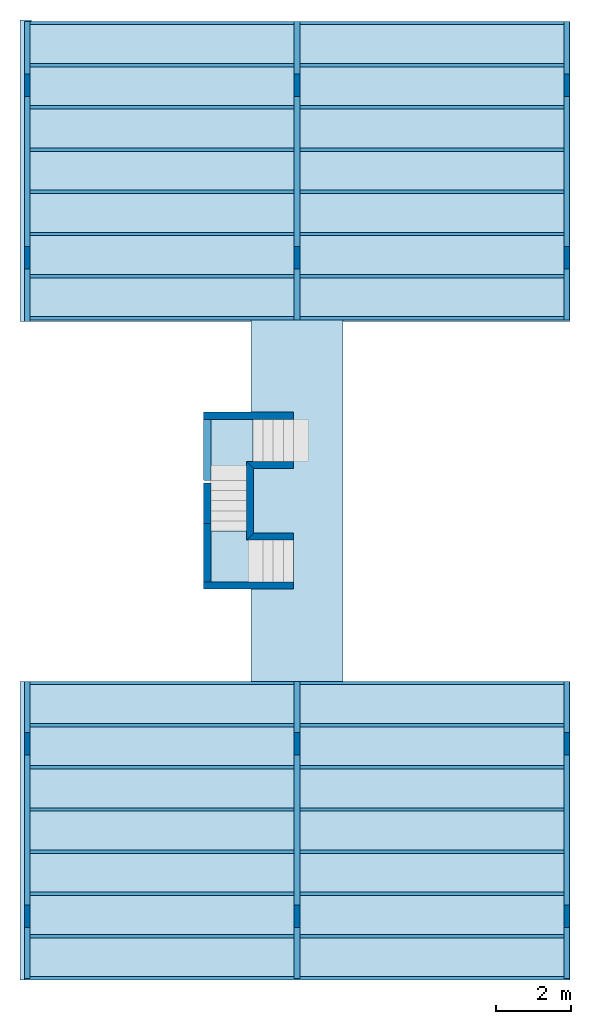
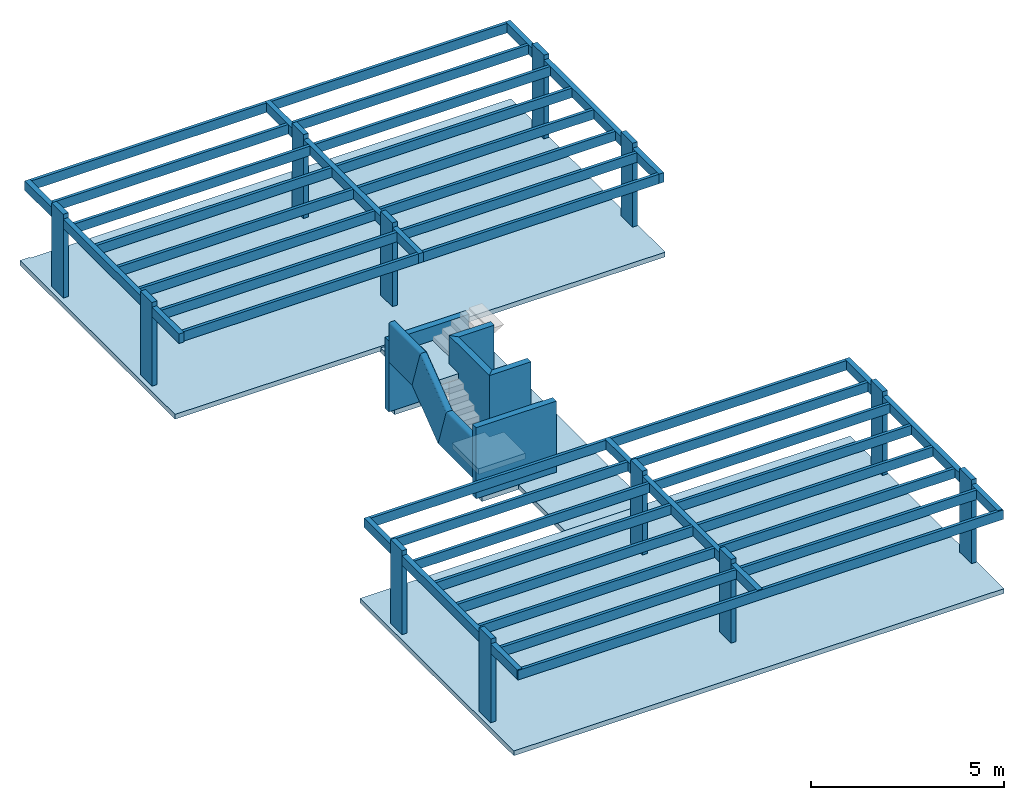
# One storey, part 1 of 2: 22 beams, 12 columns, 8 walls, 5 slabs, 1 element without a shape of its own.
"""IFC4 building model written with IfcOpenShell, lengths in millimetres."""

from ifc_helpers import new_model, entity, si_unit, converted_unit, derived_unit, direction, frame, frame_2d, origin_with_axes, origin_2d_with_axis, place, context, subcontext, project, spatial, line, indexed_curve, rectangle, outline, extrude, polygons, source, transform, mapped, material, layer, layer_set, layer_usage, type_object, element, aggregate, save


model = new_model("IFC4")

# Units and contexts
model_context = context("Model", 3, precision=0.01, world=origin_with_axes(), true_north=direction((0.0, 1.0)))
body_context = subcontext(model_context, "Body", "Model", "MODEL_VIEW")
ifc_project = project(units=[si_unit("LENGTHUNIT", "METRE", prefix="MILLI"), si_unit("AREAUNIT", "SQUARE_METRE"), si_unit("VOLUMEUNIT", "CUBIC_METRE"), converted_unit("PLANEANGLEUNIT", "DEGREE", entity("IfcPlaneAngleMeasure", 0.0174532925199), si_unit("PLANEANGLEUNIT", "RADIAN"), dimensions=[0, 0, 0, 0, 0, 0, 0]), converted_unit("TIMEUNIT", "Year", entity("IfcTimeMeasure", 31556926.0), si_unit("TIMEUNIT", "SECOND"), dimensions=[0, 0, 1, 0, 0, 0, 0]), si_unit("MASSUNIT", "GRAM", prefix="KILO"), si_unit("THERMODYNAMICTEMPERATUREUNIT", "DEGREE_CELSIUS"), si_unit("LUMINOUSINTENSITYUNIT", "LUMEN"), si_unit("ENERGYUNIT", "JOULE", prefix="MEGA"), derived_unit("THERMALCONDUCTANCEUNIT", [(si_unit("POWERUNIT", "WATT"), 1), (si_unit("LENGTHUNIT", "METRE"), -1), (si_unit("THERMODYNAMICTEMPERATUREUNIT", "KELVIN"), -1)]), derived_unit("SPECIFICHEATCAPACITYUNIT", [(si_unit("ENERGYUNIT", "JOULE"), 1), (si_unit("MASSUNIT", "GRAM", prefix="KILO"), -1), (si_unit("THERMODYNAMICTEMPERATUREUNIT", "KELVIN"), -1)]), derived_unit("MASSDENSITYUNIT", [(si_unit("MASSUNIT", "GRAM", prefix="KILO"), 1), (si_unit("VOLUMEUNIT", "CUBIC_METRE"), -1)])], contexts=[model_context])

# Site, building, storey
site_placement = place(None, origin_with_axes())
site = spatial("IfcSite", under=ifc_project, at=site_placement, Name="Local", CompositionType="ELEMENT")
building_placement = place(site_placement, origin_with_axes())
building = spatial("IfcBuilding", under=site, at=building_placement, Name="Construção", CompositionType="ELEMENT")
storey_placement = place(building_placement, frame((0.0, 0.0, -2650.0), z_axis=(0.0, 0.0, 1.0), x_axis=(1.0, 0.0, 0.0)))
storey = spatial("IfcBuildingStorey", under=building, at=storey_placement, Name="Pavimento Terreo", CompositionType="ELEMENT", Elevation=-2650.0)

# Columns
ifc_material_1 = material(Name="Concreto Armado Moldado in Loco - Estrutural")
column_type = type_object("IfcColumnType", Name="Concreto Armado Moldado in Loco - Estrutural 600 x 150", PredefinedType="NOTDEFINED")
for number, where, z_axis, x_axis, name in (
    (1, (14575.0, 19560.0, 0.0), (0.0, 0.0, 1.0), (0.0, -1.0, 0.0), "PILAR-017"),
    (2, (14575.0, 6600.0, 0.0), (0.0, 0.0, 1.0), (0.0, -1.0, 0.0), "PILAR-015"),
    (3, (14575.0, 24160.0, 0.0), (0.0, 0.0, 1.0), (0.0, -1.0, 0.0), "PILAR-006"),
    (4, (14575.0, 2000.0, 0.0), (0.0, 0.0, 1.0), (0.0, -1.0, 0.0), "PILAR-007"),
    (5, (7385.0, 6600.0, 0.0), (0.0, 0.0, 1.0), (0.0, -1.0, 0.0), "PILAR-016"),
):
    element("IfcColumn", number, at=place(storey_placement, frame(where, z_axis=z_axis, x_axis=x_axis)), inside=storey, type_object=column_type, material=ifc_material_1, Name=name, PredefinedType="NOTDEFINED", context=body_context, shape_type="SweptSolid", body=[
        extrude(rectangle(XDim=600.0, YDim=150.0, at=origin_2d_with_axis()), origin_with_axes(), (0.0, 0.0, 1.0), 2650.0),
    ])
for number, where, z_axis, x_axis, name in (
    (6, (7385.0, 19560.0, 0.0), (0.0, 0.0, 1.0), (0.0, -1.0, 0.0), "PILAR-011"),
    (7, (7385.0, 24160.0, 0.0), (0.0, 0.0, 1.0), (0.0, -1.0, 0.0), "PILAR-010"),
):
    element("IfcColumn", number, at=place(storey_placement, frame(where, z_axis=z_axis, x_axis=x_axis)), inside=storey, type_object=column_type, material=ifc_material_1, Name=name, PredefinedType="NOTDEFINED", context=body_context, shape_type="SweptSolid", body=[
        extrude(rectangle(XDim=600.0, YDim=150.0, at=origin_2d_with_axis()), frame((0.0, 0.0, 0.0), z_axis=(0.0, 0.0, -1.0), x_axis=(-1.0, 0.0, 0.0)), (0.0, 0.0, -1.0), 2650.0),
    ])
for number, where, z_axis, x_axis, name in (
    (8, (195.0, 24160.0, 0.0), (0.0, 0.0, 1.0), (0.0, -1.0, 0.0), "PILAR-009"),
    (9, (195.0, 19560.0, 0.0), (0.0, 0.0, 1.0), (0.0, -1.0, 0.0), "PILAR-008"),
    (10, (195.0, 6600.0, 0.0), (0.0, 0.0, 1.0), (0.0, -1.0, 0.0), "PILAR-013"),
    (11, (7385.0, 2000.0, 0.0), (0.0, 0.0, 1.0), (0.0, -1.0, 0.0), "PILAR-014"),
    (12, (195.0, 2000.0, 0.0), (0.0, 0.0, 1.0), (0.0, -1.0, 0.0), "PILAR-012"),
):
    element("IfcColumn", number, at=place(storey_placement, frame(where, z_axis=z_axis, x_axis=x_axis)), inside=storey, type_object=column_type, material=ifc_material_1, Name=name, PredefinedType="NOTDEFINED", context=body_context, shape_type="SweptSolid", body=[
        extrude(rectangle(XDim=600.0, YDim=150.0, at=origin_2d_with_axis()), origin_with_axes(), (0.0, 0.0, 1.0), 2650.0),
    ])

# Beams
beam_type_1 = type_object("IfcBeamType", Name="Concreto Armado Moldado in Loco - Estrutural 150 x 300", PredefinedType="NOTDEFINED")
beam_1_placement = place(storey_placement, frame((14650.0, 8265.0, 2500.0), z_axis=(0.0, 0.0, 1.0), x_axis=(-1.0, 0.0, 0.0)))
element("IfcBeam", 13, at=beam_1_placement, inside=storey, type_object=beam_type_1, material=ifc_material_1, Name="VIGA-036", PredefinedType="NOTDEFINED", context=body_context, shape_type="SweptSolid", body=[
    extrude(rectangle(XDim=300.0, YDim=150.0, at=frame_2d((-150.0, 75.0), x_axis=(1.0, 0.0))), frame((0.0, 0.0, 0.0), z_axis=(0.0, 1.0, 0.0), x_axis=(0.0, 0.0, 1.0)), (0.0, 0.0, 1.0), 7929.97902127),
])
for number, where, z_axis, x_axis, name in (
    (14, (14650.0, 25860.0, 2500.0), (0.0, 0.0, 1.0), (-1.0, 0.0, 0.0), "VIGA-033"),
    (15, (7460.0, 25860.0, 2500.0), (0.0, 0.0, 1.0), (-1.0, 0.0, 0.0), "VIGA-032"),
):
    element("IfcBeam", number, at=place(storey_placement, frame(where, z_axis=z_axis, x_axis=x_axis)), inside=storey, type_object=beam_type_1, material=ifc_material_1, Name=name, PredefinedType="NOTDEFINED", context=body_context, shape_type="SweptSolid", body=[
        extrude(rectangle(XDim=300.0, YDim=150.0, at=frame_2d((-150.0, 75.0), x_axis=(1.0, 0.0))), frame((0.0, 0.0, 0.0), z_axis=(0.0, 1.0, 0.0), x_axis=(0.0, 0.0, 1.0)), (0.0, 0.0, 1.0), 7964.97902127),
    ])
beam_2_placement = place(storey_placement, frame((270.0, 25860.0, 2500.0), z_axis=(0.0, 0.0, 1.0), x_axis=(-1.0, 0.0, 0.0)))
element("IfcBeam", 16, at=beam_2_placement, inside=storey, type_object=beam_type_1, material=ifc_material_1, Name="VIGA-031", PredefinedType="NOTDEFINED", context=body_context, shape_type="SweptSolid", body=[
    extrude(rectangle(XDim=300.0, YDim=150.0, at=frame_2d((-150.0, 75.0), x_axis=(1.0, 0.0))), frame((0.0, 0.0, 0.0), z_axis=(0.0, 1.0, 0.0), x_axis=(0.0, 0.0, 1.0)), (0.0, 0.0, 1.0), 8000.00024169),
])
for number, where, z_axis, x_axis, name in (
    (17, (7460.0, 8265.0, 2500.0), (0.0, 0.0, 1.0), (-1.0, 0.0, 0.0), "VIGA-035"),
    (18, (270.0, 8265.0, 2500.0), (0.0, 0.0, 1.0), (-1.0, 0.0, 0.0), "VIGA-034"),
):
    element("IfcBeam", number, at=place(storey_placement, frame(where, z_axis=z_axis, x_axis=x_axis)), inside=storey, type_object=beam_type_1, material=ifc_material_1, Name=name, PredefinedType="NOTDEFINED", context=body_context, shape_type="SweptSolid", body=[
        extrude(rectangle(XDim=300.0, YDim=150.0, at=frame_2d((-150.0, 75.0), x_axis=(1.0, 0.0))), frame((0.0, 0.0, 0.0), z_axis=(0.0, 1.0, 0.0), x_axis=(0.0, 0.0, 1.0)), (0.0, 0.0, 1.0), 7929.97902127),
    ])
beam_type_2 = type_object("IfcBeamType", Name="Concreto Armado Moldado in Loco - Estrutural 90 x 300", PredefinedType="NOTDEFINED")
for number, where, z_axis, x_axis, name in (
    (19, (120.0, 8265.0, 2500.0), (0.0, 0.0, 1.0), (0.0, -1.0, 0.0), "VIGA-041"),
    (20, (120.0, 7140.0, 2500.0), (0.0, 0.0, 1.0), (0.0, -1.0, 0.0), "VIGA-042"),
    (21, (120.0, 6015.0, 2500.0), (0.0, 0.0, 1.0), (0.0, -1.0, 0.0), "VIGA-043"),
    (22, (120.0, 4890.0, 2500.0), (0.0, 0.0, 1.0), (0.0, -1.0, 0.0), "VIGA-044"),
    (23, (120.0, 3765.0, 2500.0), (0.0, 0.0, 1.0), (0.0, -1.0, 0.0), "VIGA-045"),
    (24, (120.0, 2640.0, 2500.0), (0.0, 0.0, 1.0), (0.0, -1.0, 0.0), "VIGA-046"),
    (25, (120.0, 1515.0, 2500.0), (0.0, 0.0, 1.0), (0.0, -1.0, 0.0), "VIGA-019"),
    (26, (120.0, 390.0, 2500.0), (0.0, 0.0, 1.0), (0.0, -1.0, 0.0), "VIGA-020"),
):
    element("IfcBeam", number, at=place(storey_placement, frame(where, z_axis=z_axis, x_axis=x_axis)), inside=storey, type_object=beam_type_2, material=ifc_material_1, Name=name, PredefinedType="NOTDEFINED", context=body_context, shape_type="SweptSolid", body=[
        extrude(rectangle(XDim=300.0, YDim=90.0, at=frame_2d((-150.0, 45.0), x_axis=(1.0, 0.0))), frame((0.0, 0.0, 0.0), z_axis=(0.0, 1.0, 0.0), x_axis=(0.0, 0.0, 1.0)), (0.0, 0.0, 1.0), 14530.0),
    ])
for number, where, z_axis, x_axis, name in (
    (27, (195.0, 19020.0, 2500.0), (0.0, 0.0, 1.0), (0.0, -1.0, 0.0), "VIGA-021"),
    (28, (195.0, 20145.0, 2500.0), (0.0, 0.0, 1.0), (0.0, -1.0, 0.0), "VIGA-022"),
    (29, (195.0, 21270.0, 2500.0), (0.0, 0.0, 1.0), (0.0, -1.0, 0.0), "VIGA-023"),
    (30, (195.0, 22395.0, 2500.0), (0.0, 0.0, 1.0), (0.0, -1.0, 0.0), "VIGA-024"),
    (31, (195.0, 23520.0, 2500.0), (0.0, 0.0, 1.0), (0.0, -1.0, 0.0), "VIGA-025"),
    (32, (195.0, 24645.0, 2500.0), (0.0, 0.0, 1.0), (0.0, -1.0, 0.0), "VIGA-026"),
    (33, (195.0, 25770.0, 2500.0), (0.0, 0.0, 1.0), (0.0, -1.0, 0.0), "VIGA-027"),
):
    element("IfcBeam", number, at=place(storey_placement, frame(where, z_axis=z_axis, x_axis=x_axis)), inside=storey, type_object=beam_type_2, material=ifc_material_1, Name=name, PredefinedType="NOTDEFINED", context=body_context, shape_type="SweptSolid", body=[
        extrude(rectangle(XDim=300.0, YDim=90.0, at=frame_2d((-150.0, -45.0), x_axis=(1.0, 0.0))), frame((0.0, 0.0, 0.0), z_axis=(0.0, 1.0, 0.0), x_axis=(0.0, 0.0, 1.0)), (0.0, 0.0, 1.0), 14455.0),
    ])
beam_3_placement = place(storey_placement, frame((270.0, 17895.0209787, 2500.0), z_axis=(0.0, 0.0, 1.0), x_axis=(0.0, -1.0, 0.0)))
element("IfcBeam", 34, at=beam_3_placement, inside=storey, type_object=beam_type_2, material=ifc_material_1, Name="VIGA-028", PredefinedType="NOTDEFINED", context=body_context, shape_type="SweptSolid", body=[
    extrude(rectangle(XDim=300.0, YDim=90.0, at=frame_2d((-150.0, -45.0), x_axis=(1.0, 0.0))), frame((0.0, 0.0, 0.0), z_axis=(0.0, 1.0, 0.0), x_axis=(0.0, 0.0, 1.0)), (0.0, 0.0, 1.0), 14380.0),
])

# Slabs
ifc_layer_1 = layer(ifc_material_1, 150.0, ventilated="UNKNOWN", Name="Concreto Armado Moldado in Loco - Estrutural")
ifc_layer_set_1 = layer_set([ifc_layer_1], Name="Concreto Armado Moldado in Loco - Estrutural 150")
ifc_layer_usage_1 = layer_usage(ifc_layer_set_1, "AXIS3", "NEGATIVE", 150.0)
slab_type_1 = type_object("IfcSlabType", Name="Concreto Armado Moldado in Loco - Estrutural 150", PredefinedType="FLOOR")
slab_1_placement = place(storey_placement, frame((5064.99995159, 10720.0001189, -50.0), z_axis=(0.0, 0.0, 1.0), x_axis=(1.0, 0.0, 0.0)))
element("IfcSlab", 35, at=slab_1_placement, inside=storey, type_object=slab_type_1, material=ifc_layer_usage_1, Name="LAJE-015", PredefinedType="FLOOR", context=body_context, shape_type="SweptSolid", body=[
    extrude(outline(indexed_curve([(0.0, 0.0), (1095.00001286, 0.0), (1095.00001286, -2457.04687431), (3545.00005278, -2457.04687431), (3545.00005278, 7174.99988111), (1095.00001286, 7174.99988111), (1095.00001286, 4719.99987128), (0.0, 4719.99987128), (0.0, 4529.99986643), (2224.99995863, 4529.99986643), (2224.99995863, 3409.99986048), (975.000017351, 3409.99986048), (975.000017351, 1309.99986727), (2224.99995863, 1309.99986727), (2224.99995863, 189.999861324), (0.0, 189.999861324)], segments=[line(1, 2, 3, 4, 5, 6, 7, 8, 9, 10, 11, 12, 13, 14, 15, 16, 1)])), frame((0.0, 0.0, -150.0), z_axis=(0.0, 0.0, 1.0), x_axis=(1.0, 0.0, 0.0)), (0.0, 0.0, 1.0), 150.0),
])
ifc_layer_usage_2 = layer_usage(ifc_layer_set_1, "AXIS3", "NEGATIVE", 150.0)
slab_2_placement = place(storey_placement, frame((6160.00013826, 8264.99995433, 0.0), z_axis=(0.0, 0.0, 1.0), x_axis=(1.0, 0.0, 0.0)))
element("IfcSlab", 36, at=slab_2_placement, inside=storey, type_object=slab_type_1, material=ifc_layer_usage_2, Name="LAJE-009", PredefinedType="FLOOR", context=body_context, shape_type="SweptSolid", body=[
    extrude(outline(indexed_curve([(0.0, 0.0), (-6160.0234086, 0.0), (-6160.00023694, -7964.99995433), (-5860.00021972, -7964.99995433), (8509.99986174, -7964.99995433), (8509.99986174, 0.0), (2449.99977627, 0.0)], segments=[line(1, 2, 3, 4, 5, 6, 7, 1)])), frame((0.0, 0.0, -150.0), z_axis=(0.0, 0.0, 1.0), x_axis=(1.0, 0.0, 0.0)), (0.0, 0.0, 1.0), 150.0),
])
ifc_layer_usage_3 = layer_usage(ifc_layer_set_1, "AXIS3", "NEGATIVE", 150.0)
slab_3_placement = place(storey_placement, frame((0.0, 17859.9995507, 0.0), z_axis=(0.0, 0.0, 1.0), x_axis=(1.0, 0.0, 0.0)))
element("IfcSlab", 37, at=slab_3_placement, inside=storey, type_object=slab_type_1, material=ifc_layer_usage_3, Name="LAJE-011", PredefinedType="FLOOR", context=body_context, shape_type="SweptSolid", body=[
    extrude(outline(indexed_curve([(0.0, 0.0), (299.999978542, -0.000218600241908), (14670.0, -0.000218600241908), (14670.0, 8000.0005208), (8609.9999088, 8000.0005208), (6160.00008404, 8000.0005208), (300.038014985, 7997.95376672), (300.02489897, 8035.00038713), (0.0, 8035.00038713)], segments=[line(1, 2, 3, 4, 5, 6, 7, 8, 9, 1)])), frame((0.0, 0.0, -150.0), z_axis=(0.0, 0.0, 1.0), x_axis=(1.0, 0.0, 0.0)), (0.0, 0.0, 1.0), 150.0),
])
ifc_layer_2 = layer(ifc_material_1, 180.0, ventilated="UNKNOWN", Name="Concreto Armado Moldado in Loco - Estrutural")
ifc_layer_set_2 = layer_set([ifc_layer_2], Name="Concreto Armado Moldado in Loco - Estrutural 180")
ifc_layer_usage_4 = layer_usage(ifc_layer_set_2, "AXIS3", "NEGATIVE", 180.0)
slab_type_2 = type_object("IfcSlabType", Name="Concreto Armado Moldado in Loco - Estrutural 180", PredefinedType="FLOOR")
slab_4_placement = place(storey_placement, frame((5065.0, 13620.0, 1570.0), z_axis=(0.0, 0.0, 1.0), x_axis=(1.0, 0.0, 0.0)))
element("IfcSlab", 38, at=slab_4_placement, inside=storey, type_object=slab_type_2, material=ifc_layer_usage_4, Name="LAJE-013", PredefinedType="FLOOR", context=body_context, shape_type="SweptSolid", body=[
    extrude(outline(indexed_curve([(0.0, 0.0), (1145.0, 0.0), (1145.0, 1630.0), (0.0, 1630.0)], segments=[line(1, 2, 3, 4, 1)])), origin_with_axes(), (0.0, 0.0, 1.0), 180.0),
])
ifc_layer_usage_5 = layer_usage(ifc_layer_set_2, "AXIS3", "NEGATIVE", 180.0)
slab_5_placement = place(storey_placement, frame((5065.0, 10910.0, 539.429241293), z_axis=(0.0, 0.0, 1.0), x_axis=(1.0, 0.0, 0.0)))
element("IfcSlab", 39, at=slab_5_placement, inside=storey, type_object=slab_type_2, material=ifc_layer_usage_5, Name="LAJE-014", PredefinedType="FLOOR", context=body_context, shape_type="SweptSolid", body=[
    extrude(outline(indexed_curve([(0.0, 0.0), (1415.0, 0.0), (1415.0, 1120.0), (975.0, 1120.0), (975.0, 1360.0), (0.0, 1360.0)], segments=[line(1, 2, 3, 4, 5, 6, 1)])), origin_with_axes(), (0.0, 0.0, 1.0), 180.0),
])

# Walls
ifc_material_2 = material(Name="GENÉRICO - VEDAÇÃO EXTERNA")
ifc_layer_3 = layer(ifc_material_2, 190.0, ventilated="UNKNOWN", Name="GENÉRICO - VEDAÇÃO EXTERNA")
ifc_layer_set_3 = layer_set([ifc_layer_3], Name="GENÉRICO - VEDAÇÃO EXTERNA 190")
ifc_layer_usage_6 = layer_usage(ifc_layer_set_3, "AXIS2", "NEGATIVE", 0.0)
wall_type_1 = type_object("IfcWallType", Name="GENÉRICO - VEDAÇÃO EXTERNA 190", PredefinedType="NOTDEFINED")
wall_1_placement = place(storey_placement, frame((4890.0, 10910.0, -50.0), z_axis=(0.0, 0.0, 1.0), x_axis=(1.0, 0.0, 0.0)))
element("IfcWall", 40, at=wall_1_placement, inside=storey, type_object=wall_type_1, material=ifc_layer_usage_6, Name="PAREDE-039", PredefinedType="NOTDEFINED", context=body_context, shape_type="SweptSolid", body=[
    extrude(outline(indexed_curve([(0.0, -190.0), (2400.0, -190.0), (2400.0, 0.0), (0.0, 0.0)], segments=[line(1, 2, 3, 4, 1)])), origin_with_axes(), (0.0, 0.0, 1.0), 2250.0),
])
ifc_layer_usage_7 = layer_usage(ifc_layer_set_3, "AXIS2", "NEGATIVE", 0.0)
wall_2_placement = place(storey_placement, frame((4890.0, 15440.0, -50.0), z_axis=(0.0, 0.0, 1.0), x_axis=(1.0, 0.0, 0.0)))
element("IfcWall", 41, at=wall_2_placement, inside=storey, type_object=wall_type_1, material=ifc_layer_usage_7, Name="PAREDE-038", PredefinedType="NOTDEFINED", context=body_context, shape_type="SweptSolid", body=[
    extrude(outline(indexed_curve([(0.0, -190.0), (2400.0, -190.0), (2400.0, 0.0), (0.0, 0.0)], segments=[line(1, 2, 3, 4, 1)])), origin_with_axes(), (0.0, 0.0, 1.0), 2250.0),
])
ifc_layer_4 = layer(ifc_material_1, 190.0, ventilated="UNKNOWN", Name="Concreto Armado Moldado in Loco - Estrutural")
ifc_layer_set_4 = layer_set([ifc_layer_4], Name="Concreto Armado Moldado in Loco - Estrutural 190")
ifc_layer_usage_8 = layer_usage(ifc_layer_set_4, "AXIS2", "NEGATIVE", 0.0)
wall_type_2 = type_object("IfcWallType", Name="Concreto Armado Moldado in Loco - Estrutural 190", PredefinedType="NOTDEFINED")
wall_3_placement = place(storey_placement, frame((7290.0, 13940.0, -50.0), z_axis=(0.0, 0.0, 1.0), x_axis=(-1.0, 0.0, 0.0)))
element("IfcWall", 42, at=wall_3_placement, inside=storey, type_object=wall_type_2, material=ifc_layer_usage_8, Name="PAREDE-043", PredefinedType="NOTDEFINED", context=body_context, shape_type="SweptSolid", body=[
    extrude(outline(indexed_curve([(0.0, -190.0), (1250.0, -190.0), (1060.0, 0.0), (0.0, 0.0)], segments=[line(1, 2, 3, 4, 1)])), origin_with_axes(), (0.0, 0.0, 1.0), 2700.0),
])
ifc_layer_usage_9 = layer_usage(ifc_layer_set_4, "AXIS2", "NEGATIVE", 0.0)
wall_4_placement = place(storey_placement, frame((6230.0, 12220.0, -50.0), z_axis=(0.0, 0.0, 1.0), x_axis=(1.0, 0.0, 0.0)))
element("IfcWall", 43, at=wall_4_placement, inside=storey, type_object=wall_type_2, material=ifc_layer_usage_9, Name="PAREDE-042", PredefinedType="NOTDEFINED", context=body_context, shape_type="SweptSolid", body=[
    extrude(outline(indexed_curve([(-190.0, -190.0), (1060.0, -190.0), (1060.0, 0.0), (0.0, 0.0)], segments=[line(1, 2, 3, 4, 1)])), origin_with_axes(), (0.0, 0.0, 1.0), 2700.0),
])
ifc_layer_usage_10 = layer_usage(ifc_layer_set_4, "AXIS2", "NEGATIVE", 0.0)
wall_5_placement = place(storey_placement, frame((6230.0, 13940.0, -50.0), z_axis=(0.0, 0.0, 1.0), x_axis=(0.0, -1.0, 0.0)))
element("IfcWall", 44, at=wall_5_placement, inside=storey, type_object=wall_type_2, material=ifc_layer_usage_10, Name="PAREDE-041", PredefinedType="NOTDEFINED", context=body_context, shape_type="SweptSolid", body=[
    extrude(outline(indexed_curve([(-190.0, -190.0), (1910.0, -190.0), (1720.0, 0.0), (0.0, 0.0)], segments=[line(1, 2, 3, 4, 1)])), origin_with_axes(), (0.0, 0.0, 1.0), 2700.0),
])

# Railing, walls
railing_type = type_object("IfcRailingType", Name="Tipo de Guarda-Corpo", PredefinedType="NOTDEFINED")
railing_placement = place(storey_placement, frame((4890.0, 10910.0, 500.0), z_axis=(0.0, 0.0, 1.0), x_axis=(1.0, 0.0, 0.0)))
railing = element("IfcRailing", 45, at=railing_placement, inside=storey, type_object=railing_type, Name="GC-001", PredefinedType="NOTDEFINED")
ifc_material_3 = material(Name="Concreto")
wall_type_3 = type_object("IfcWallType", Name="IfcWall", PredefinedType="NOTDEFINED")
shared_shape_1 = source(origin_with_axes(), body_context, "Body", "Tessellation", [
    polygons([(102.555801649, 0.0, 1250.0), (155.222345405, 0.0, 1250.0), (155.222345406, 1360.0, 1250.0), (102.555801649, 1360.0, 1250.0), (102.555801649, 0.0, 0.0), (205.111603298, 0.0, 0.0), (205.111603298, 0.0, 1203.32595053), (203.863102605, 0.0, 1211.57915105), (201.259002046, 0.0, 1219.50964493), (197.371876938, 0.0, 1226.89641224), (192.310060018, 0.0, 1233.53358652), (186.214622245, 0.0, 1239.23619217), (179.255441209, 0.0, 1243.8452997), (171.626466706, 0.0, 1247.23245499), (163.540315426, 0.0, 1249.30325927), (163.540315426, 1360.23554641, 1249.30325927), (171.626466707, 1360.93562106, 1247.23245499), (179.25544121, 1362.08071312, 1243.8452997), (186.214622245, 1363.6389093, 1239.23619217), (192.310060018, 1365.56678325, 1233.53358652), (197.371876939, 1367.81060584, 1226.89641224), (201.259002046, 1370.30784257, 1219.50964493), (203.863102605, 1372.98889638, 1211.57915105), (205.111603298, 1375.77904728, 1203.32595053), (205.111603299, 1782.58619778, 0.0), (102.555801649, 1782.58619778, 0.0)], [[[1, 2, 3, 4]], [[1, 5, 6, 7, 8, 9, 10, 11, 12, 13, 14, 15, 2]], [[2, 15, 16, 3]], [[4, 3, 16, 17, 18, 19, 20, 21, 22, 23, 24, 25, 26]], [[5, 1, 4, 26]], [[6, 5, 26, 25]], [[7, 6, 25, 24]], [[8, 7, 24, 23]], [[9, 8, 23, 22]], [[10, 9, 22, 21]], [[11, 10, 21, 20]], [[12, 11, 20, 19]], [[13, 12, 19, 18]], [[14, 13, 18, 17]], [[15, 14, 17, 16]]], closed=True),
    polygons([(102.555801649, 0.0, 0.0), (0.0, 0.0, 0.0), (2.67611799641e-10, 1782.58619778, 0.0), (102.555801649, 1782.58619778, 0.0), (102.555801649, 0.0, 1250.0), (49.8892578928, 0.0, 1250.0), (41.5712878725, 0.0, 1249.30325927), (33.485136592, 0.0, 1247.23245499), (25.8561620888, 0.0, 1243.8452997), (18.8969810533, 0.0, 1239.23619217), (12.8015432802, 0.0, 1233.53358652), (7.73972635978, 0.0, 1226.89641224), (3.85260125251, 0.0, 1219.50964493), (1.24850069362, 0.0, 1211.57915105), (0.0, 0.0, 1203.32595053), (2.06578442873e-10, 1375.77904728, 1203.32595053), (1.24850069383, 1372.98889638, 1211.57915105), (3.85260125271, 1370.30784257, 1219.50964493), (7.73972635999, 1367.81060584, 1226.89641224), (12.8015432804, 1365.56678325, 1233.53358652), (18.8969810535, 1363.6389093, 1239.23619217), (25.856162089, 1362.08071312, 1243.8452997), (33.4851365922, 1360.93562106, 1247.23245499), (41.5712878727, 1360.23554641, 1249.30325927), (49.889257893, 1360.0, 1250.0), (102.555801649, 1360.0, 1250.0)], [[[1, 2, 3, 4]], [[1, 5, 6, 7, 8, 9, 10, 11, 12, 13, 14, 15, 2]], [[2, 15, 16, 3]], [[4, 3, 16, 17, 18, 19, 20, 21, 22, 23, 24, 25, 26]], [[5, 1, 4, 26]], [[6, 5, 26, 25]], [[7, 6, 25, 24]], [[8, 7, 24, 23]], [[9, 8, 23, 22]], [[10, 9, 22, 21]], [[11, 10, 21, 20]], [[12, 11, 20, 19]], [[13, 12, 19, 18]], [[14, 13, 18, 17]], [[15, 14, 17, 16]]], closed=True),
])
wall_6_placement = place(railing_placement, frame((1.02140518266e-10, 680.0, -16.7165309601), z_axis=(0.0, 0.0, 1.0), x_axis=(1.0, 0.0, 0.0)))
wall_6 = element("IfcWall", 46, at=wall_6_placement, type_object=wall_type_3, material=ifc_material_3, Name="GC - Barra Superior - 001", PredefinedType="NOTDEFINED", context=body_context, shape_type="MappedRepresentation", body=[
    mapped(shared_shape_1, transform((-1.02140518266e-10, -680.0, 16.7165309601))),
])
shared_shape_2 = source(origin_with_axes(), body_context, "Body", "Tessellation", [
    polygons([(102.555801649, 0.0, 1250.0), (155.222345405, 0.0, 1250.0), (155.222345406, 1350.0, 2280.57075871), (102.555801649, 1350.0, 2280.57075871), (102.555801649, 422.586197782, 0.0), (205.111603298, 422.586197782, 0.0), (205.111603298, 15.7790472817, 1203.32595053), (203.863102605, 12.9888963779, 1211.57915105), (201.259002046, 10.3078425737, 1219.50964493), (197.371876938, 7.81060584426, 1226.89641224), (192.310060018, 5.56678325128, 1233.53358652), (186.214622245, 3.6389092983, 1239.23619217), (179.255441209, 2.08071311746, 1243.8452997), (171.626466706, 0.935621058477, 1247.23245499), (163.540315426, 0.235546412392, 1249.30325927), (163.540315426, 1350.23554641, 2279.87401798), (171.626466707, 1350.93562106, 2277.8032137), (179.25544121, 1352.08071312, 2274.41605841), (186.214622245, 1353.6389093, 2269.80695088), (192.310060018, 1355.56678325, 2264.10434523), (197.371876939, 1357.81060584, 2257.46717095), (201.259002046, 1360.30784257, 2250.08040364), (203.863102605, 1362.98889638, 2242.14990976), (205.111603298, 1365.77904728, 2233.89670923), (205.111603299, 1772.58619778, 1030.57075871), (102.555801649, 1772.58619778, 1030.57075871)], [[[1, 2, 3, 4]], [[1, 5, 6, 7, 8, 9, 10, 11, 12, 13, 14, 15, 2]], [[2, 15, 16, 3]], [[4, 3, 16, 17, 18, 19, 20, 21, 22, 23, 24, 25, 26]], [[5, 1, 4, 26]], [[6, 5, 26, 25]], [[7, 6, 25, 24]], [[8, 7, 24, 23]], [[9, 8, 23, 22]], [[10, 9, 22, 21]], [[11, 10, 21, 20]], [[12, 11, 20, 19]], [[13, 12, 19, 18]], [[14, 13, 18, 17]], [[15, 14, 17, 16]]], closed=True),
    polygons([(102.555801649, 422.586197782, 0.0), (0.0, 422.586197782, 0.0), (2.65861798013e-10, 1772.58619778, 1030.57075871), (102.555801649, 1772.58619778, 1030.57075871), (102.555801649, 0.0, 1250.0), (49.8892578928, 0.0, 1250.0), (41.5712878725, 0.23554641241, 1249.30325927), (33.485136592, 0.935621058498, 1247.23245499), (25.8561620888, 2.08071311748, 1243.8452997), (18.8969810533, 3.63890929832, 1239.23619217), (12.8015432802, 5.5667832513, 1233.53358652), (7.73972635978, 7.81060584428, 1226.89641224), (3.85260125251, 10.3078425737, 1219.50964493), (1.24850069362, 12.9888963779, 1211.57915105), (0.0, 15.7790472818, 1203.32595053), (2.04803070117e-10, 1365.77904728, 2233.89670923), (1.24850069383, 1362.98889638, 2242.14990976), (3.85260125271, 1360.30784257, 2250.08040364), (7.73972635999, 1357.81060584, 2257.46717095), (12.8015432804, 1355.56678325, 2264.10434523), (18.8969810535, 1353.6389093, 2269.80695088), (25.856162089, 1352.08071312, 2274.41605841), (33.4851365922, 1350.93562106, 2277.8032137), (41.5712878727, 1350.23554641, 2279.87401798), (49.889257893, 1350.0, 2280.57075871), (102.555801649, 1350.0, 2280.57075871)], [[[1, 2, 3, 4]], [[1, 5, 6, 7, 8, 9, 10, 11, 12, 13, 14, 15, 2]], [[2, 15, 16, 3]], [[4, 3, 16, 17, 18, 19, 20, 21, 22, 23, 24, 25, 26]], [[5, 1, 4, 26]], [[6, 5, 26, 25]], [[7, 6, 25, 24]], [[8, 7, 24, 23]], [[9, 8, 23, 22]], [[10, 9, 22, 21]], [[11, 10, 21, 20]], [[12, 11, 20, 19]], [[13, 12, 19, 18]], [[14, 13, 18, 17]], [[15, 14, 17, 16]]], closed=True),
])
wall_7_placement = place(railing_placement, frame((3.05533376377e-10, 2035.0, -16.7165309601), z_axis=(0.0, 0.0, 1.0), x_axis=(1.0, 0.0, 0.0)))
wall_7 = element("IfcWall", 47, at=wall_7_placement, type_object=wall_type_3, material=ifc_material_3, Name="GC - Barra Superior - 001", PredefinedType="NOTDEFINED", context=body_context, shape_type="MappedRepresentation", body=[
    mapped(shared_shape_2, transform((-1.01252339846e-10, -675.0, 16.7165309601))),
])
shared_shape_3 = source(origin_with_axes(), body_context, "Body", "Tessellation", [
    polygons([(102.555801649, 0.0, 1250.0), (155.222345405, 0.0, 1250.0), (155.222345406, 1630.0, 1250.0), (102.555801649, 1630.0, 1250.0), (102.555801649, 422.586197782, 0.0), (205.111603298, 422.586197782, 0.0), (205.111603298, 15.7790472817, 1203.32595053), (203.863102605, 12.9888963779, 1211.57915105), (201.259002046, 10.3078425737, 1219.50964493), (197.371876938, 7.81060584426, 1226.89641224), (192.310060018, 5.56678325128, 1233.53358652), (186.214622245, 3.6389092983, 1239.23619217), (179.255441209, 2.08071311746, 1243.8452997), (171.626466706, 0.935621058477, 1247.23245499), (163.540315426, 0.235546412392, 1249.30325927), (163.540315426, 1630.0, 1249.30325927), (171.626466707, 1630.0, 1247.23245499), (179.25544121, 1630.0, 1243.8452997), (186.214622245, 1630.0, 1239.23619217), (192.310060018, 1630.0, 1233.53358652), (197.371876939, 1630.0, 1226.89641224), (201.259002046, 1630.0, 1219.50964493), (203.863102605, 1630.0, 1211.57915105), (205.111603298, 1630.0, 1203.32595053), (205.111603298, 1630.0, 0.0), (102.555801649, 1630.0, 0.0)], [[[1, 2, 3, 4]], [[1, 5, 6, 7, 8, 9, 10, 11, 12, 13, 14, 15, 2]], [[2, 15, 16, 3]], [[4, 3, 16, 17, 18, 19, 20, 21, 22, 23, 24, 25, 26]], [[5, 1, 4, 26]], [[6, 5, 26, 25]], [[7, 6, 25, 24]], [[8, 7, 24, 23]], [[9, 8, 23, 22]], [[10, 9, 22, 21]], [[11, 10, 21, 20]], [[12, 11, 20, 19]], [[13, 12, 19, 18]], [[14, 13, 18, 17]], [[15, 14, 17, 16]]], closed=True),
    polygons([(102.555801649, 422.586197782, 0.0), (0.0, 422.586197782, 0.0), (2.45081732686e-10, 1630.0, 0.0), (102.555801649, 1630.0, 0.0), (102.555801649, 0.0, 1250.0), (49.8892578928, 0.0, 1250.0), (41.5712878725, 0.23554641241, 1249.30325927), (33.485136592, 0.935621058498, 1247.23245499), (25.8561620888, 2.08071311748, 1243.8452997), (18.8969810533, 3.63890929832, 1239.23619217), (12.8015432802, 5.5667832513, 1233.53358652), (7.73972635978, 7.81060584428, 1226.89641224), (3.85260125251, 10.3078425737, 1219.50964493), (1.24850069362, 12.9888963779, 1211.57915105), (0.0, 15.7790472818, 1203.32595053), (2.45067854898e-10, 1630.0, 1203.32595053), (1.24850069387, 1630.0, 1211.57915105), (3.85260125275, 1630.0, 1219.50964493), (7.73972636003, 1630.0, 1226.89641224), (12.8015432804, 1630.0, 1233.53358652), (18.8969810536, 1630.0, 1239.23619217), (25.8561620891, 1630.0, 1243.8452997), (33.4851365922, 1630.0, 1247.23245499), (41.5712878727, 1630.0, 1249.30325927), (49.8892578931, 1630.0, 1250.0), (102.555801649, 1630.0, 1250.0)], [[[1, 2, 3, 4]], [[1, 5, 6, 7, 8, 9, 10, 11, 12, 13, 14, 15, 2]], [[2, 15, 16, 3]], [[4, 3, 16, 17, 18, 19, 20, 21, 22, 23, 24, 25, 26]], [[5, 1, 4, 26]], [[6, 5, 26, 25]], [[7, 6, 25, 24]], [[8, 7, 24, 23]], [[9, 8, 23, 22]], [[10, 9, 22, 21]], [[11, 10, 21, 20]], [[12, 11, 20, 19]], [[13, 12, 19, 18]], [[14, 13, 18, 17]], [[15, 14, 17, 16]]], closed=True),
])
wall_8_placement = place(railing_placement, frame((5.29354338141e-10, 3525.0, 1013.85422775), z_axis=(0.0, 0.0, 1.0), x_axis=(1.0, 0.0, 0.0)))
wall_8 = element("IfcWall", 48, at=wall_8_placement, type_object=wall_type_3, material=ifc_material_3, Name="GC - Barra Superior - 001", PredefinedType="NOTDEFINED", context=body_context, shape_type="MappedRepresentation", body=[
    mapped(shared_shape_3, transform((-1.22568621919e-10, -815.0, 16.7165309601))),
])
aggregate(railing, [wall_6, wall_7, wall_8])

save(model, "model.ifc")
